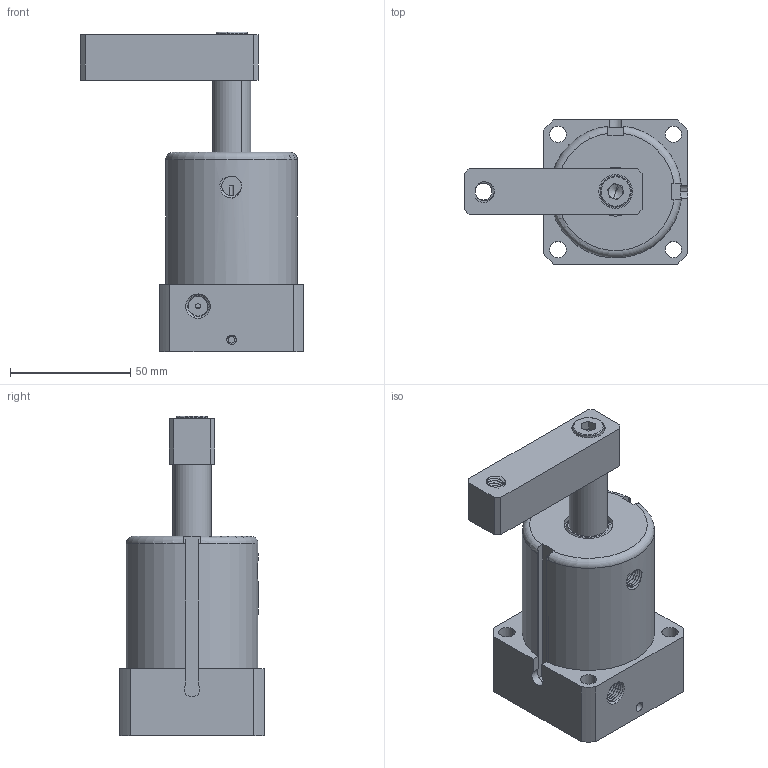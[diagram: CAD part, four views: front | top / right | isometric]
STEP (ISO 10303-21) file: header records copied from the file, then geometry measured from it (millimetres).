
FILE_DESCRIPTION (( 'STEP AP203' ), '1' );
FILE_NAME ('ASC-MS40.STEP', '2013-09-21T01:07:00', ( '微软用户' ), ( '微软中国' ), 'SwSTEP 2.0', 'SolidWorks 2012', '' );
FILE_SCHEMA (( 'CONFIG_CONTROL_DESIGN' ));
Products named in the file (10): ASC-MS40; socket head cap screw_iso_ISO 4762 M8 x 25 --- 25S; socket set screw cone point_iso_ISO 4027 - M5 x 5-S; S裝11; 埴翐种; ASC-MF40SYB; ASC+40FCF; ASC-MS40HG; ASC-MS40SHSG; ASC-MS40BT
Assembly tree (9 placements, depth 2):
  ASC-MS40
    ASC-MS40BT
    ASC-MS40SHSG
    ASC-MS40HG
    ASC+40FCF
    ASC-MF40SYB
    埴翐种
    S裝11
    socket set screw cone point_iso_ISO 4027 - M5 x 5-S
    socket head cap screw_iso_ISO 4762 M8 x 25 --- 25S
Bounding box: 93 x 60 x 133 mm (x, y, z)
Volume: 208415 mm3; surface area: 72539.1 mm2
Topology: 9 solids, 9 shells, 543 faces, 1411 edges, 899 vertices
Faces by surface type: cylinder 227, cone 127, plane 102, bspline 44, torus 43
Entity records: 30250 total; most frequent: CARTESIAN_POINT 16469, ORIENTED_EDGE 2802, DIRECTION 2613, EDGE_CURVE 1401, AXIS2_PLACEMENT_3D 1057, VERTEX_POINT 899, EDGE_LOOP 596, CIRCLE 546
